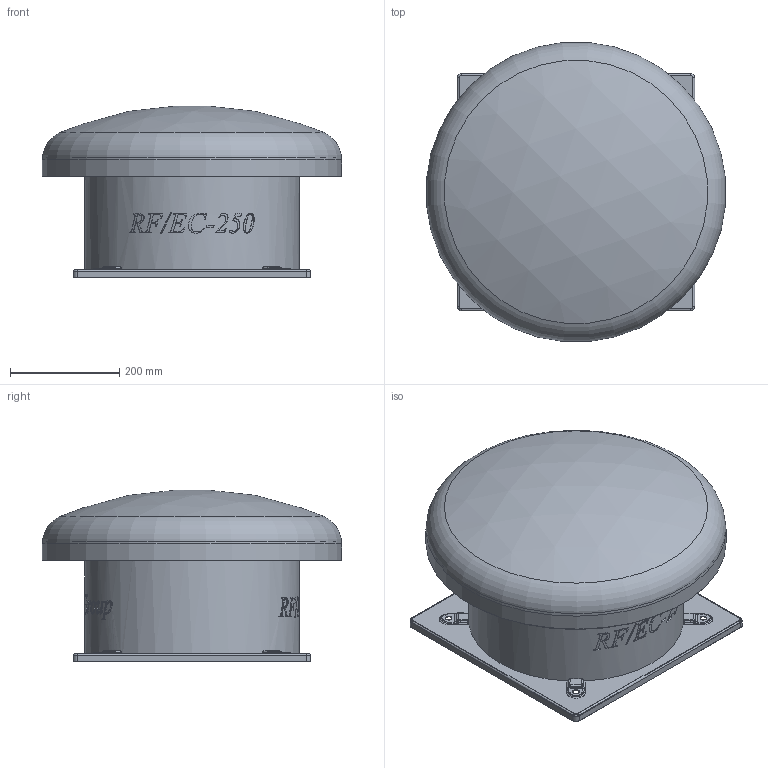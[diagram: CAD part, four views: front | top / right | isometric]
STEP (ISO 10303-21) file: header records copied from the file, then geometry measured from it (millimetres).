
FILE_DESCRIPTION(/* description */ (''),/* implementation_level */ '2;1');
FILE_NAME(/* name */ 'E:\Mariusz\Modele uproszczone\RF-EC\RF_EC_250 43522922\RF_EC_250 43522922\RF_EC_250 43522922.stp',/* time_stamp */ '2018-06-07T09:39:11+02:00',/* author */ ('M.Janczarek'),/* organization */ (''),/* preprocessor_version */ 'ST-DEVELOPER v16.5',/* originating_system */ 'Autodesk Inventor 2017',/* authorisation */ '');
FILE_SCHEMA (('AUTOMOTIVE_DESIGN { 1 0 10303 214 3 1 1 }'));
Length unit declared in the file: millimetre
Products named in the file (1): RF_EC_250 43522922
Bounding box: 548.15 x 548.15 x 314.81 mm (x, y, z)
Volume: 40182108.1 mm3; surface area: 1083525 mm2
Topology: 1 solids, 1 shells, 704 faces, 1884 edges, 1218 vertices
Faces by surface type: bspline 440, cylinder 114, plane 110, torus 34, cone 5, sphere 1
Full cylindrical faces by diameter (mm): 10 x1, 12 x4, 17.5 x1, 394 x1, 547 x1, 550 x1
Entity records: 30900 total; most frequent: CARTESIAN_POINT 15345, ORIENTED_EDGE 3732, DIRECTION 2209, EDGE_CURVE 1866, VERTEX_POINT 1212, AXIS2_PLACEMENT_3D 811, EDGE_LOOP 760, B_SPLINE_CURVE_WITH_KNOTS 733
